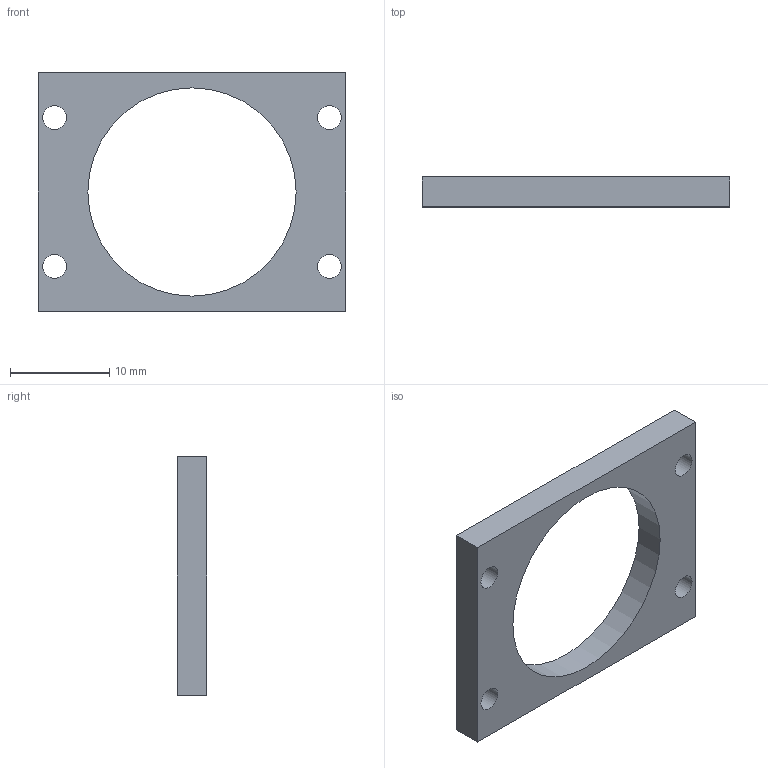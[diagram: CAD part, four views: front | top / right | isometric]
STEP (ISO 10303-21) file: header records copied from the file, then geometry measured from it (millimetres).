
FILE_DESCRIPTION(('Open CASCADE Model'),'2;1');
FILE_NAME('Open CASCADE Shape Model','2026-08-26T11:57:29',('Author'),( 'Open CASCADE'),'Open CASCADE STEP processor 7.8','Open CASCADE 7.8' ,'Unknown');
FILE_SCHEMA(('AUTOMOTIVE_DESIGN { 1 0 10303 214 1 1 1 1 }'));
Length unit declared in the file: millimetre
Products named in the file (1): Open CASCADE STEP translator 7.8 2
Bounding box: 31 x 3 x 24 mm (x, y, z)
Volume: 1138.6 mm3; surface area: 1377.5 mm2
Topology: 1 solids, 1 shells, 11 faces, 27 edges, 18 vertices
Faces by surface type: plane 6, cylinder 5
Full cylindrical faces by diameter (mm): 2.4 x4, 21 x1
Entity records: 712 total; most frequent: DIRECTION 115, CARTESIAN_POINT 111, LINE 61, VECTOR 61, ORIENTED_EDGE 54, PCURVE 54, DEFINITIONAL_REPRESENTATION 54, EDGE_CURVE 27
